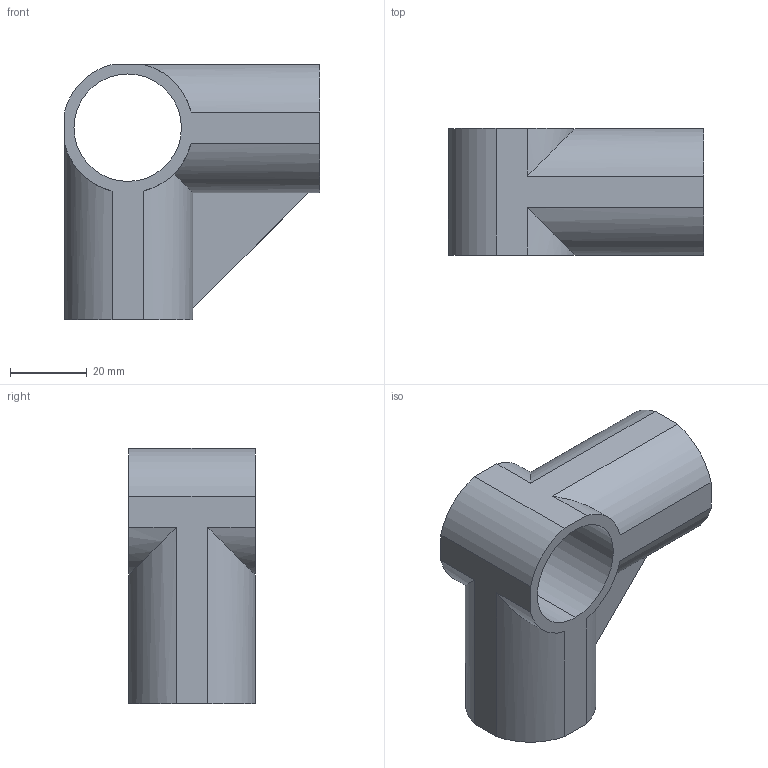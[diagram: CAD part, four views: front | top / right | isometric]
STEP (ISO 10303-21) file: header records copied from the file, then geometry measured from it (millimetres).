
FILE_DESCRIPTION (( 'STEP AP214' ), '1' );
FILE_NAME ('PJ-100C.STEP', '2023-09-12T10:58:47', ( 'catia' ), ( 'HP Inc.' ), 'SwSTEP 2.0', 'SolidWorks 2021', '' );
FILE_SCHEMA (( 'AUTOMOTIVE_DESIGN' ));
Length unit declared in the file: millimetre
Products named in the file (1): PJ-100C
Bounding box: 66.5 x 33 x 66.5 mm (x, y, z)
Volume: 37045.3 mm3; surface area: 20838.2 mm2
Topology: 1 solids, 1 shells, 31 faces, 81 edges, 54 vertices
Faces by surface type: cylinder 20, plane 11
Entity records: 1000 total; most frequent: CARTESIAN_POINT 206, ORIENTED_EDGE 162, DIRECTION 159, EDGE_CURVE 81, AXIS2_PLACEMENT_3D 59, VERTEX_POINT 54, VECTOR 41, LINE 41
